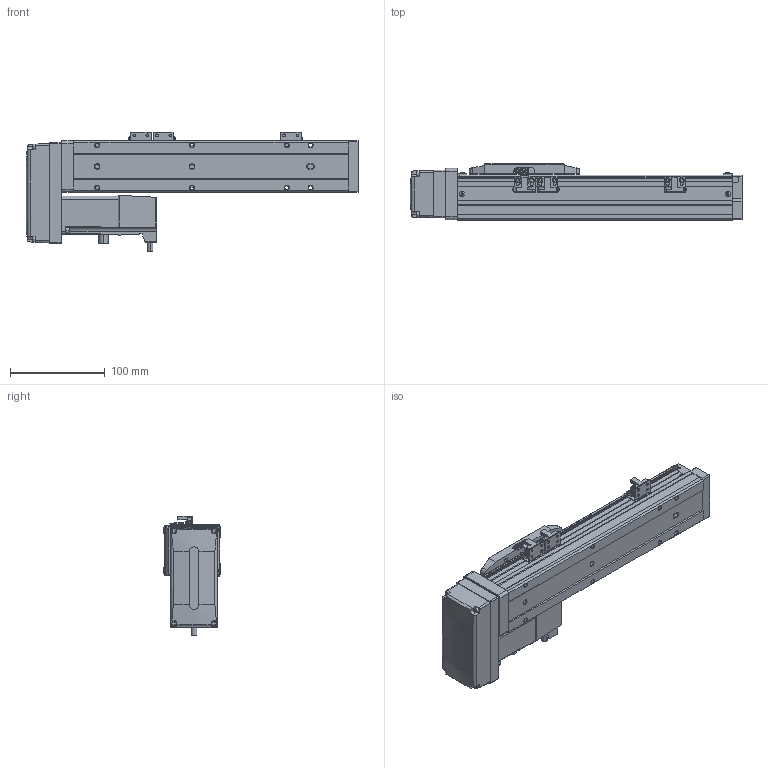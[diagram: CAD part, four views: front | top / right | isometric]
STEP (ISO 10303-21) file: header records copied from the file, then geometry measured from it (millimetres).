
FILE_DESCRIPTION (( 'STEP AP203' ), '1' );
FILE_NAME ('CTH5-L10-S150-BR-C10(¼ò).STEP', '2023-02-04T02:30:14', ( '' ), ( '' ), 'SwSTEP 2.0', 'SolidWorks 2018', '' );
FILE_SCHEMA (( 'CONFIG_CONTROL_DESIGN' ));
Length unit declared in the file: millimetre
Products named in the file (22): hex nuts, style 1-grades ab gb_GB_FASTENER_NUT_SNAB1 M3-N; CTH5耜蚾蟀諉啣(潠); CTH5覜茼え; PM-Y45; M3｡｣; CTH嫖萇羲壽假蚾啣; CTH100W假蚾啣; 嫖萇羲壽郪磁1; CTH5賑怢; CTH5耜晚蹟隊-1; CTH5-BL-T10_body5; CTH5耜晚蹟隊; CTH5-L10-S150-BR-C10(潠); CTH5耜蚾欶; CTH5ヶ耜啣(潠); 内六角圆柱头螺钉M3-2; 100W萇儂; T10-p1; CTH5綴耜啣; 葩璃 蚾饜极16^CTH5-L10-S150-BR-C10(潠); CTH5菁釱-L290; 葩璃 蚾饜极13^CTH8-L10-S50-BM-C40(潠)1
Assembly tree (37 placements, depth 4):
  CTH5-L10-S150-BR-C10(潠)
    CTH5綴耜啣
    CTH5賑怢
    CTH5ヶ耜啣(潠)
    CTH5菁釱-L290
    CTH5耜晚蹟隊  x2
    嫖萇羲壽郪磁1  x2
      CTH嫖萇羲壽假蚾啣
      PM-Y45
      M3｡｣
      内六角圆柱头螺钉M3-2
      hex nuts, style 1-grades ab gb_GB_FASTENER_NUT_SNAB1 M3-N
    CTH5覜茼え
    葩璃 蚾饜极13^CTH8-L10-S50-BM-C40(潠)1
      CTH嫖萇羲壽假蚾啣
      PM-Y45
      内六角圆柱头螺钉M3-2  x2
      M3｡｣  x2
      hex nuts, style 1-grades ab gb_GB_FASTENER_NUT_SNAB1 M3-N  x2
    CTH5耜晚蹟隊-1  x4
    葩璃 蚾饜极16^CTH5-L10-S150-BR-C10(潠)
      CTH5耜蚾蟀諉啣(潠)
      CTH5耜蚾欶
        CTH5-BL-T10_body5
      100W萇儂
        T10-p1
      CTH100W假蚾啣
Bounding box: 350 x 60 x 126.31 mm (x, y, z)
Volume: 1041576.3 mm3; surface area: 175164.6 mm2
Topology: 39 solids, 39 shells, 1571 faces, 3931 edges, 2544 vertices
Faces by surface type: plane 890, cylinder 456, cone 167, torus 40, bspline 18
Entity records: 36265 total; most frequent: CARTESIAN_POINT 6712, DIRECTION 5695, ORIENTED_EDGE 5486, EDGE_CURVE 2743, AXIS2_PLACEMENT_3D 1946, LINE 1803, VECTOR 1803, VERTEX_POINT 1772
